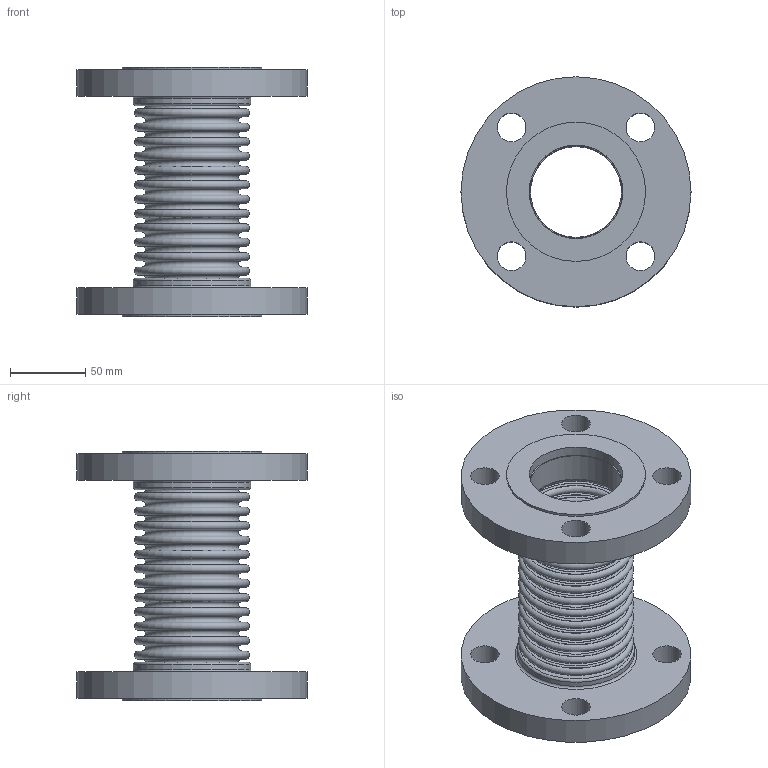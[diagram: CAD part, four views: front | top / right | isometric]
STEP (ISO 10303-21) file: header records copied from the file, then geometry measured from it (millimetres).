
FILE_DESCRIPTION(/* description */ ('EXPANSION JOINT,SINGLE, FLANGED ENDS,2 INCH NOMINAL','CAx-IF Rec.Pracs.---Representation and Presentation of Product Manufacturing Information (PMI)---4.0---2014-10-13'),/* implementation_level */ '2;1');
FILE_NAME(/* name */ 'US-02-12-150L-FLANGED ENDS.stp',/* time_stamp */ '2026-07-31T16:34:25-05:00',/* author */ ('Guadalupe'),/* organization */ (''),/* preprocessor_version */ 'ST-DEVELOPER v20.1',/* originating_system */ 'Autodesk Inventor 2026',/* authorisation */ '');
FILE_SCHEMA (('AP242_MANAGED_MODEL_BASED_3D_ENGINEERING_MIM_LF { 1 0 10303 442 2 1 4 }'));
Length unit declared in the file: inch
Products named in the file (3): 02-150L; 02-150L-02; 02-150L-01
Assembly tree (3 placements, depth 2):
  02-150L
    02-150L-02  x2
    02-150L-01
Bounding box: 152.4 x 152.4 x 165.1 mm (x, y, z)
Volume: 562766 mm3; surface area: 213449.3 mm2
Topology: 5 solids, 5 shells, 136 faces, 222 edges, 148 vertices
Faces by surface type: plane 62, torus 54, cylinder 20
Full cylindrical faces by diameter (mm): 19.05 x8, 60.325 x2, 61.544 x2, 61.976 x2, 77.724 x2, 92.202 x2, 152.4 x2
Entity records: 3138 total; most frequent: DIRECTION 654, CARTESIAN_POINT 465, ORIENTED_EDGE 384, AXIS2_PLACEMENT_3D 321, EDGE_CURVE 192, EDGE_LOOP 188, CIRCLE 180, VERTEX_POINT 128
